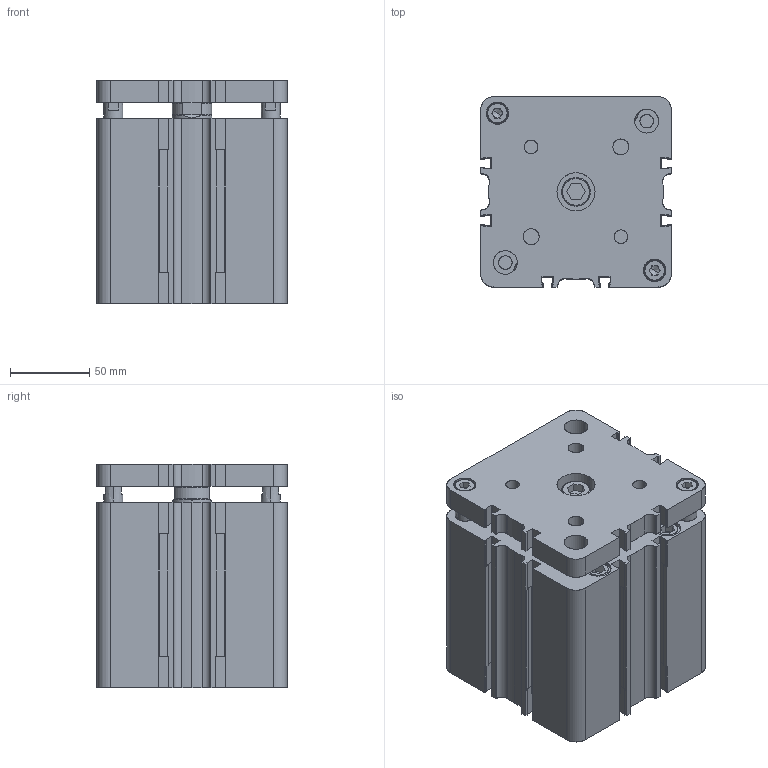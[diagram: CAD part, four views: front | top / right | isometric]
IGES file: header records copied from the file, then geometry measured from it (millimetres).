
Start section: SolidWorks IGES file using analytic representation for surfaces
Global section: file name: K:\Disegni Esecutivi\Cilindri\2_DISEGNI_cilindri_in_produzione\CILINDRO_ISO_21287\seconda versione cilindro 21287\2_CIL100\complessivi W100\W100_PIENI\WFA100\WFA1000050A.igs; native system: SolidWorks 2011; preprocessor: SolidWorks 2011; author: Cad01; date: 120803.172821; units: millimetre
Bounding box: 120 x 120 x 141 mm (x, y, z)
Surface area: 148339.8 mm2 (no closed solid volume)
Topology: 0 solids, 0 shells, 771 faces, 8407 edges, 8387 vertices
Faces by surface type: bspline 416, revolution 355
